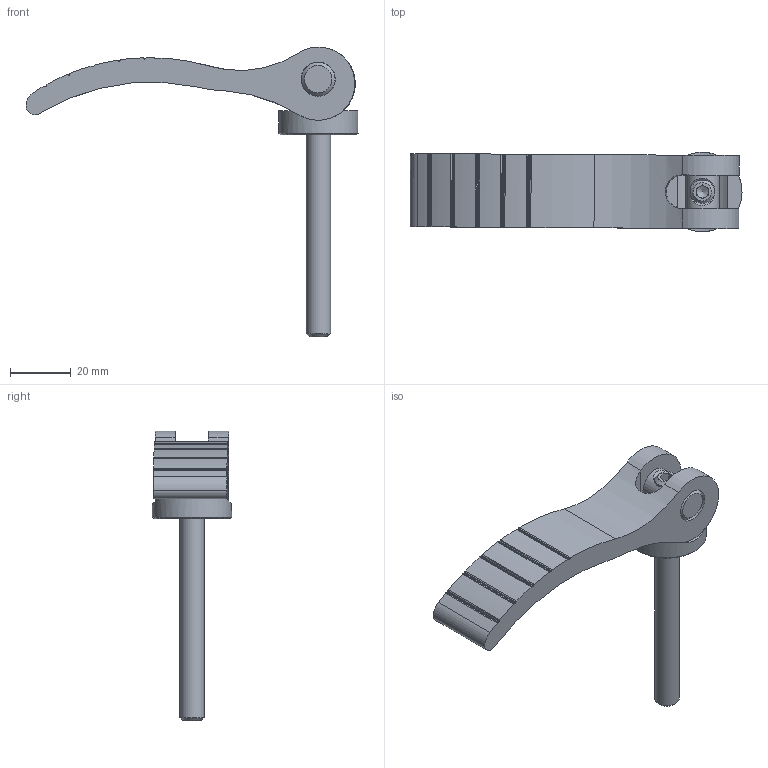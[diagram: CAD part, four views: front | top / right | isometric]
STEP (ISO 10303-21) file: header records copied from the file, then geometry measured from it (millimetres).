
FILE_DESCRIPTION(('STEP AP203'), '1');
FILE_NAME('À00360.111080825 _ Ýêñöåíòðèê 108 ìì', '', ('UNSPECIFIED'), ('UNSPECIFIED'), 'C3D Converter', 'C3D Toolkit', '');
FILE_SCHEMA(('CONFIG_CONTROL_DESIGN'));
Length unit declared in the file: millimetre
Products named in the file (5): А00360.108.03; А00360.108.02; А00360.108.01
Assembly tree (4 placements, depth 2):
  (unnamed)
    А00360.108.03
    А00360.108.02
    А00360.108.01
    (unnamed)
Bounding box: 108.87 x 26 x 94.97 mm (x, y, z)
Volume: 30551.8 mm3; surface area: 13692 mm2
Topology: 4 solids, 4 shells, 79 faces, 203 edges, 132 vertices
Faces by surface type: cylinder 38, plane 33, cone 6, bspline 2
Full cylindrical faces by diameter (mm): 6.647 x1, 8 x1, 10.5 x1, 11 x1, 11.2 x2, 26 x1
Entity records: 4439 total; most frequent: CARTESIAN_POINT 2270, DIRECTION 424, ORIENTED_EDGE 370, EDGE_CURVE 185, AXIS2_PLACEMENT_3D 168, VERTEX_POINT 129, EDGE_LOOP 102, LINE 88
